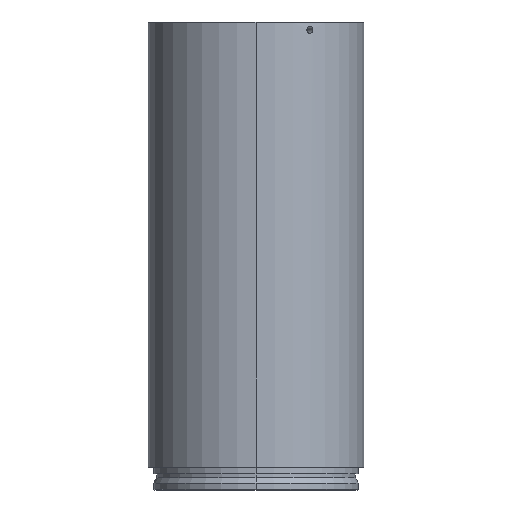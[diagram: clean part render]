
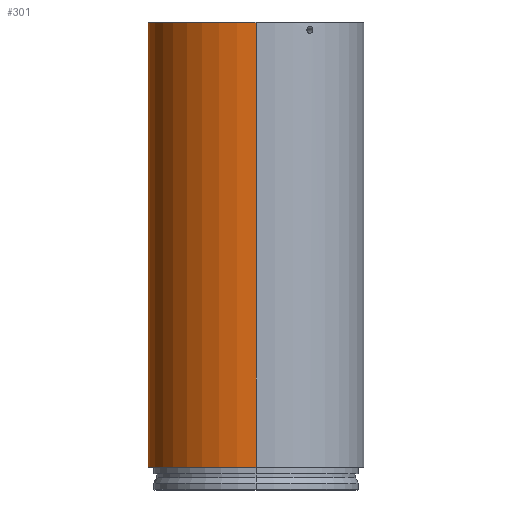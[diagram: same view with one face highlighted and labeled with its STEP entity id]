
A CAD part, left-side view. The second image highlights one B-rep face of the part: STEP entity #301.
In plain terms, the highlighted cylindrical face has radius 39 mm (diameter 78 mm), a partial arc.
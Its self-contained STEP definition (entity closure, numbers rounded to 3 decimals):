
#10 = DIRECTION ( 'NONE',  ( 1., 0., 0. ) ) ;
#29 = CARTESIAN_POINT ( 'NONE',  ( -0.082, 39., -85.334 ) ) ;
#36 = CARTESIAN_POINT ( 'NONE',  ( 0.769, 38.993, -83.085 ) ) ;
#52 = CARTESIAN_POINT ( 'NONE',  ( 0.63, 38.995, -82.992 ) ) ;
#105 = CARTESIAN_POINT ( 'NONE',  ( 0., 39., -82.834 ) ) ;
#112 = CARTESIAN_POINT ( 'NONE',  ( -0.63, 38.995, -85.176 ) ) ;
#116 = ORIENTED_EDGE ( 'NONE', *, *, #920, .T. ) ;
#119 = CARTESIAN_POINT ( 'NONE',  ( 0.942, 38.989, -83.259 ) ) ;
#126 = DIRECTION ( 'NONE',  ( 0., 0., 1. ) ) ;
#162 = CIRCLE ( 'NONE', #839, 39. ) ;
#182 = CIRCLE ( 'NONE', #564, 39. ) ;
#209 = CARTESIAN_POINT ( 'NONE',  ( -1.218, 38.981, -84.411 ) ) ;
#210 = DIRECTION ( 'NONE',  ( 0., 0., -1. ) ) ;
#220 = CARTESIAN_POINT ( 'NONE',  ( -1.092, 38.985, -84.713 ) ) ;
#233 = CARTESIAN_POINT ( 'NONE',  ( 0., 0., -81.584 ) ) ;
#242 = CARTESIAN_POINT ( 'NONE',  ( -0.999, 38.987, -83.316 ) ) ;
#244 = CARTESIAN_POINT ( 'NONE',  ( -39., 0., -242.185 ) ) ;
#259 = CARTESIAN_POINT ( 'NONE',  ( -39., 0., -124.939 ) ) ;
#265 = VERTEX_POINT ( 'NONE', #993 ) ;
#271 = CARTESIAN_POINT ( 'NONE',  ( 39., 0., -242.185 ) ) ;
#293 = ORIENTED_EDGE ( 'NONE', *, *, #720, .T. ) ;
#295 = CARTESIAN_POINT ( 'NONE',  ( -1.092, 38.985, -83.455 ) ) ;
#301 = ADVANCED_FACE ( 'NONE', ( #1188, #537 ), #1199, .T. ) ;
#317 = B_SPLINE_CURVE_WITH_KNOTS ( 'NONE', 3,
 ( #105, #470, #352, #1074, #583, #242, #295, #571, #482, #1041, #209, #220, #615, #943, #112, #516, #888, #475, #29, #883 ),
 .UNSPECIFIED., .F., .F.,
 ( 4, 2, 2, 2, 2, 2, 2, 2, 2, 4 ),
 ( 0., 0., 0.001, 0.001, 0.002, 0.002, 0.003, 0.003, 0.004, 0.004 ),
 .UNSPECIFIED. ) ;
#352 = CARTESIAN_POINT ( 'NONE',  ( -0.327, 38.999, -82.867 ) ) ;
#389 = CARTESIAN_POINT ( 'NONE',  ( 0.628, 38.995, -85.177 ) ) ;
#402 = VECTOR ( 'NONE', #617, 1000. ) ;
#412 = CARTESIAN_POINT ( 'NONE',  ( 0., 39., -82.834 ) ) ;
#417 = CARTESIAN_POINT ( 'NONE',  ( 0., 39., -85.334 ) ) ;
#445 = EDGE_CURVE ( 'NONE', #596, #625, #579, .T. ) ;
#470 = CARTESIAN_POINT ( 'NONE',  ( -0.165, 39., -82.834 ) ) ;
#475 = CARTESIAN_POINT ( 'NONE',  ( -0.164, 39., -85.326 ) ) ;
#482 = CARTESIAN_POINT ( 'NONE',  ( -1.25, 38.98, -83.921 ) ) ;
#504 = CARTESIAN_POINT ( 'NONE',  ( 1.085, 38.985, -83.459 ) ) ;
#516 = CARTESIAN_POINT ( 'NONE',  ( -0.403, 38.998, -85.27 ) ) ;
#526 = AXIS2_PLACEMENT_3D ( 'NONE', #836, #1203, #10 ) ;
#533 = ORIENTED_EDGE ( 'NONE', *, *, #792, .T. ) ;
#537 = FACE_OUTER_BOUND ( 'NONE', #1099, .T. ) ;
#564 = AXIS2_PLACEMENT_3D ( 'NONE', #233, #210, #572 ) ;
#571 = CARTESIAN_POINT ( 'NONE',  ( -1.217, 38.981, -83.756 ) ) ;
#572 = DIRECTION ( 'NONE',  ( -1., 0., 0. ) ) ;
#578 = CARTESIAN_POINT ( 'NONE',  ( 0.328, 38.999, -85.301 ) ) ;
#579 = LINE ( 'NONE', #587, #783 ) ;
#583 = CARTESIAN_POINT ( 'NONE',  ( -0.769, 38.993, -83.085 ) ) ;
#587 = CARTESIAN_POINT ( 'NONE',  ( 39., 0., -124.939 ) ) ;
#596 = VERTEX_POINT ( 'NONE', #271 ) ;
#599 = CARTESIAN_POINT ( 'NONE',  ( 1.092, 38.985, -84.715 ) ) ;
#603 = CARTESIAN_POINT ( 'NONE',  ( 0., 0., -242.185 ) ) ;
#615 = CARTESIAN_POINT ( 'NONE',  ( -1.001, 38.987, -84.851 ) ) ;
#617 = DIRECTION ( 'NONE',  ( 0., 0., 1. ) ) ;
#625 = VERTEX_POINT ( 'NONE', #826 ) ;
#667 = CARTESIAN_POINT ( 'NONE',  ( 0.995, 38.987, -83.323 ) ) ;
#672 = CARTESIAN_POINT ( 'NONE',  ( 0.768, 38.993, -85.084 ) ) ;
#683 = CARTESIAN_POINT ( 'NONE',  ( 1.25, 38.98, -84.25 ) ) ;
#710 = DIRECTION ( 'NONE',  ( 0., 0., 1. ) ) ;
#714 = EDGE_CURVE ( 'NONE', #1158, #265, #1149, .T. ) ;
#720 = EDGE_CURVE ( 'NONE', #1197, #625, #182, .T. ) ;
#774 = CARTESIAN_POINT ( 'NONE',  ( 0.329, 38.999, -82.867 ) ) ;
#783 = VECTOR ( 'NONE', #126, 1000. ) ;
#786 = ORIENTED_EDGE ( 'NONE', *, *, #946, .T. ) ;
#788 = CARTESIAN_POINT ( 'NONE',  ( 1.217, 38.981, -84.412 ) ) ;
#792 = EDGE_CURVE ( 'NONE', #596, #832, #162, .T. ) ;
#812 = ORIENTED_EDGE ( 'NONE', *, *, #714, .T. ) ;
#826 = CARTESIAN_POINT ( 'NONE',  ( 39., 0., -81.584 ) ) ;
#832 = VERTEX_POINT ( 'NONE', #244 ) ;
#836 = CARTESIAN_POINT ( 'NONE',  ( 0., 0., -124.939 ) ) ;
#839 = AXIS2_PLACEMENT_3D ( 'NONE', #603, #710, #979 ) ;
#862 = CARTESIAN_POINT ( 'NONE',  ( 1.25, 38.98, -83.92 ) ) ;
#868 = CARTESIAN_POINT ( 'NONE',  ( 0.999, 38.987, -84.853 ) ) ;
#883 = CARTESIAN_POINT ( 'NONE',  ( 0., 39., -85.334 ) ) ;
#888 = CARTESIAN_POINT ( 'NONE',  ( -0.325, 38.999, -85.294 ) ) ;
#905 = CARTESIAN_POINT ( 'NONE',  ( -39., 0., -81.584 ) ) ;
#920 = EDGE_CURVE ( 'NONE', #832, #1197, #1096, .T. ) ;
#936 = EDGE_LOOP ( 'NONE', ( #786, #812 ) ) ;
#943 = CARTESIAN_POINT ( 'NONE',  ( -0.767, 38.993, -85.085 ) ) ;
#946 = EDGE_CURVE ( 'NONE', #265, #1158, #317, .T. ) ;
#950 = CARTESIAN_POINT ( 'NONE',  ( 1.218, 38.981, -83.758 ) ) ;
#971 = CARTESIAN_POINT ( 'NONE',  ( 0.163, 39., -85.334 ) ) ;
#979 = DIRECTION ( 'NONE',  ( 1., 0., 0. ) ) ;
#993 = CARTESIAN_POINT ( 'NONE',  ( 0., 39., -82.834 ) ) ;
#1041 = CARTESIAN_POINT ( 'NONE',  ( -1.25, 38.98, -84.247 ) ) ;
#1042 = CARTESIAN_POINT ( 'NONE',  ( 0., 39., -85.334 ) ) ;
#1046 = ORIENTED_EDGE ( 'NONE', *, *, #445, .F. ) ;
#1065 = CARTESIAN_POINT ( 'NONE',  ( 0.165, 39., -82.834 ) ) ;
#1074 = CARTESIAN_POINT ( 'NONE',  ( -0.63, 38.995, -82.992 ) ) ;
#1096 = LINE ( 'NONE', #259, #402 ) ;
#1099 = EDGE_LOOP ( 'NONE', ( #533, #116, #293, #1046 ) ) ;
#1143 = CARTESIAN_POINT ( 'NONE',  ( 1.124, 38.984, -83.531 ) ) ;
#1149 = B_SPLINE_CURVE_WITH_KNOTS ( 'NONE', 3,
 ( #1042, #971, #578, #389, #672, #868, #599, #788, #683, #862, #950, #1143, #504, #667, #119, #36, #52, #774, #1065, #412 ),
 .UNSPECIFIED., .F., .F.,
 ( 4, 2, 2, 2, 2, 2, 2, 2, 2, 4 ),
 ( 0.004, 0.004, 0.005, 0.005, 0.006, 0.006, 0.007, 0.007, 0.007, 0.008 ),
 .UNSPECIFIED. ) ;
#1158 = VERTEX_POINT ( 'NONE', #417 ) ;
#1188 = FACE_BOUND ( 'NONE', #936, .T. ) ;
#1197 = VERTEX_POINT ( 'NONE', #905 ) ;
#1199 = CYLINDRICAL_SURFACE ( 'NONE', #526, 39. ) ;
#1203 = DIRECTION ( 'NONE',  ( 0., 0., 1. ) ) ;
